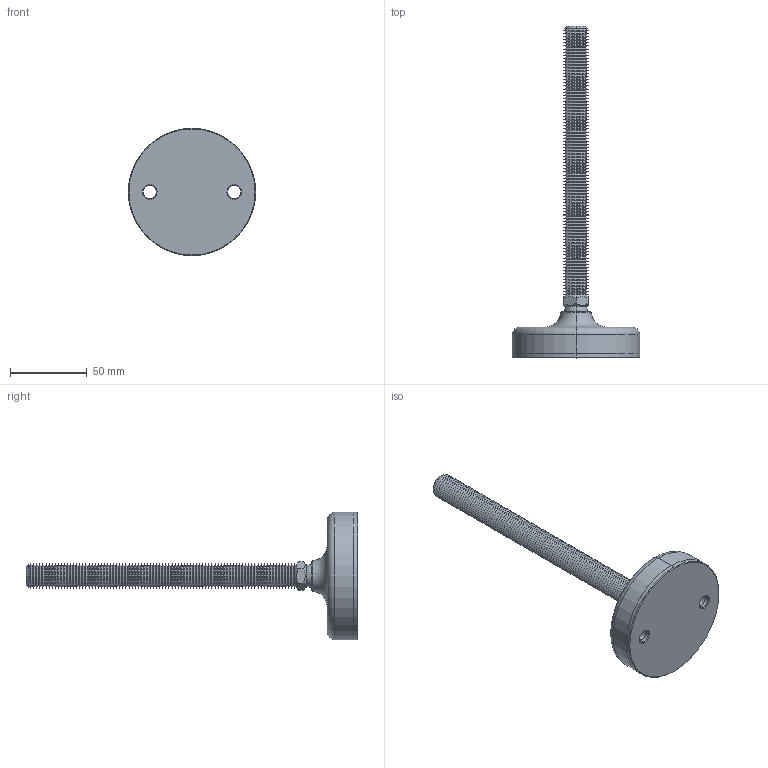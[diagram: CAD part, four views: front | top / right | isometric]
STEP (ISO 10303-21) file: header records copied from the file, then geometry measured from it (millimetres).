
FILE_DESCRIPTION (( 'STEP AP203' ), '1' );
FILE_NAME ('34724.W1605.step', '2019-11-28T22:12:33', ( '' ), ( '' ), 'SwSTEP 2.0', 'SolidWorks 2017', '' );
FILE_SCHEMA (( 'CONFIG_CONTROL_DESIGN' ));
Length unit declared in the file: millimetre
Products named in the file (4): Part2_34724.W1605; Part3_34724.W1605; 34724.W1605; Part1_34724.W1605
Assembly tree (3 placements, depth 2):
  34724.W1605
    Part1_34724.W1605
    Part2_34724.W1605
    Part3_34724.W1605
Bounding box: 83 x 216 x 83 mm (x, y, z)
Volume: 139528.9 mm3; surface area: 44166.6 mm2
Topology: 3 solids, 3 shells, 400 faces, 815 edges, 421 vertices
Faces by surface type: cone 366, plane 14, cylinder 12, sphere 4, torus 4
Entity records: 10662 total; most frequent: DIRECTION 2016, CARTESIAN_POINT 1776, ORIENTED_EDGE 1612, AXIS2_PLACEMENT_3D 816, EDGE_CURVE 806, VERTEX_POINT 416, EDGE_LOOP 412, CIRCLE 410
